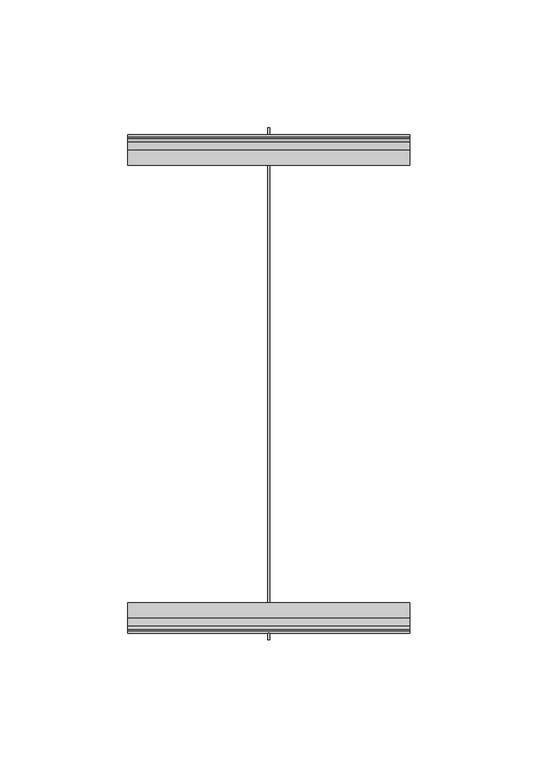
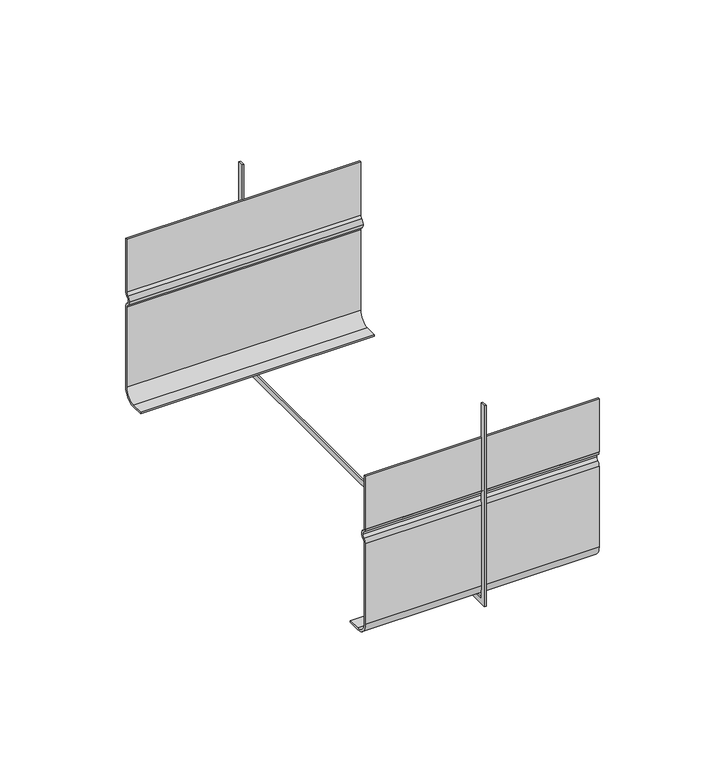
"""IFC4 building model written with IfcOpenShell, lengths in millimetres: cable carrier fitting geometry, JUER_Junction-Basortray : Basortray JUER-GS."""

from ifc_helpers import new_model, si_unit, point, frame, frame_2d, origin, place, context, project, spatial, polyline, circle_curve, trimmed, segment, composite_curve, outline, extrude, source, transform, mapped, element, save


def cable_carrier_fitting_30d9f417(model_context):
    return source(origin(), model_context, "Body", "SweptSolid", [
        extrude(outline(composite_curve([segment(polyline([(-85.46, -47.46), (-91.3323832, -47.46)]), True, "CONTINUOUS"), segment(trimmed(circle_curve(frame_2d((-91.3323832, -41.3266456)), 6.1333545), [point((-91.3323832, -47.46))], [point((-97.46, -41.0614116))], False, "CARTESIAN"), True, "CONTINUOUS"), segment(polyline([(-97.46, -41.0614116), (-97.46, -1.0793222)]), True, "CONTINUOUS"), segment(trimmed(circle_curve(frame_2d((-95.0367585, -1.0793222)), 2.4232415), [point((-97.46, -1.0793222))], [point((-96.3176031, 0.9777477))], False, "CARTESIAN"), True, "CONTINUOUS"), segment(trimmed(circle_curve(frame_2d((-97.2070283, 2.4061878)), 1.6827117), [point((-96.3176031, 0.9777477))], [point((-95.5296456, 2.54))], True, "CARTESIAN"), True, "CONTINUOUS"), segment(trimmed(circle_curve(frame_2d((-97.2070283, 2.6738121)), 1.6827117), [point((-95.5296456, 2.54))], [point((-96.3176031, 4.1022523))], True, "CARTESIAN"), True, "CONTINUOUS"), segment(trimmed(circle_curve(frame_2d((-95.0367585, 6.1593222)), 2.4232415), [point((-96.3176031, 4.1022523))], [point((-97.46, 6.1593222))], False, "CARTESIAN"), True, "CONTINUOUS"), segment(polyline([(-97.46, 6.1593222), (-97.46, 32.54), (-96.66, 32.54), (-96.66, 6.1593222)]), True, "CONTINUOUS"), segment(trimmed(circle_curve(frame_2d((-95.0367585, 6.1593222)), 1.6232415), [point((-96.66, 6.1593222))], [point((-95.8947498, 4.7813657))], True, "CARTESIAN"), True, "CONTINUOUS"), segment(trimmed(circle_curve(frame_2d((-97.2070283, 2.6738121)), 2.4827117), [point((-95.8947498, 4.7813657))], [point((-94.7279254, 2.54))], False, "CARTESIAN"), True, "CONTINUOUS"), segment(trimmed(circle_curve(frame_2d((-97.2070283, 2.4061878)), 2.4827117), [point((-94.7279254, 2.54))], [point((-95.8947498, 0.2986342))], False, "CARTESIAN"), True, "CONTINUOUS"), segment(trimmed(circle_curve(frame_2d((-95.0367585, -1.0793222)), 1.6232415), [point((-95.8947498, 0.2986342))], [point((-96.66, -1.0793222))], True, "CARTESIAN"), True, "CONTINUOUS"), segment(polyline([(-96.66, -1.0793222), (-96.66, -41.0793222)]), True, "CONTINUOUS"), segment(trimmed(circle_curve(frame_2d((-91.3323832, -41.3266456)), 5.3333545), [point((-96.66, -41.0793222))], [point((-91.3323832, -46.66))], True, "CARTESIAN"), True, "CONTINUOUS"), segment(polyline([(-91.3323832, -46.66), (-85.46, -46.66), (-85.46, -47.46)]), True, "CONTINUOUS")], self_intersect=False)), frame((-54.6, 0.0, 0.0), z_axis=(1.0, 0.0, 0.0), x_axis=(0.0, 1.0, 0.0)), (0.0, 0.0, 1.0), 110.0),
        extrude(outline(composite_curve([segment(polyline([(85.46, -47.46), (85.46, -46.66), (91.3323832, -46.66)]), True, "CONTINUOUS"), segment(trimmed(circle_curve(frame_2d((91.3323832, -41.3266456)), 5.3333545), [point((91.3323832, -46.66))], [point((96.66, -41.0793222))], True, "CARTESIAN"), True, "CONTINUOUS"), segment(polyline([(96.66, -41.0793222), (96.66, -1.0793222)]), True, "CONTINUOUS"), segment(trimmed(circle_curve(frame_2d((95.0367585, -1.0793222)), 1.6232415), [point((96.66, -1.0793222))], [point((95.8947498, 0.2986342))], True, "CARTESIAN"), True, "CONTINUOUS"), segment(trimmed(circle_curve(frame_2d((97.2070283, 2.4061878)), 2.4827117), [point((95.8947498, 0.2986342))], [point((94.7279254, 2.54))], False, "CARTESIAN"), True, "CONTINUOUS"), segment(trimmed(circle_curve(frame_2d((97.2070283, 2.6738121)), 2.4827117), [point((94.7279254, 2.54))], [point((95.8947498, 4.7813657))], False, "CARTESIAN"), True, "CONTINUOUS"), segment(trimmed(circle_curve(frame_2d((95.0367585, 6.1593222)), 1.6232415), [point((95.8947498, 4.7813657))], [point((96.66, 6.1593222))], True, "CARTESIAN"), True, "CONTINUOUS"), segment(polyline([(96.66, 6.1593222), (96.66, 32.54), (97.46, 32.54), (97.46, 6.1593222)]), True, "CONTINUOUS"), segment(trimmed(circle_curve(frame_2d((95.0367585, 6.1593222)), 2.4232415), [point((97.46, 6.1593222))], [point((96.3176031, 4.1022523))], False, "CARTESIAN"), True, "CONTINUOUS"), segment(trimmed(circle_curve(frame_2d((97.2070283, 2.6738121)), 1.6827117), [point((96.3176031, 4.1022523))], [point((95.5296456, 2.54))], True, "CARTESIAN"), True, "CONTINUOUS"), segment(trimmed(circle_curve(frame_2d((97.2070283, 2.4061878)), 1.6827117), [point((95.5296456, 2.54))], [point((96.3176031, 0.9777477))], True, "CARTESIAN"), True, "CONTINUOUS"), segment(trimmed(circle_curve(frame_2d((95.0367585, -1.0793222)), 2.4232415), [point((96.3176031, 0.9777477))], [point((97.46, -1.0793222))], False, "CARTESIAN"), True, "CONTINUOUS"), segment(polyline([(97.46, -1.0793222), (97.46, -41.0614116)]), True, "CONTINUOUS"), segment(trimmed(circle_curve(frame_2d((91.3323832, -41.3266456)), 6.1333545), [point((97.46, -41.0614116))], [point((91.3323832, -47.46))], False, "CARTESIAN"), True, "CONTINUOUS"), segment(polyline([(91.3323832, -47.46), (85.46, -47.46)]), True, "CONTINUOUS")], self_intersect=False)), frame((-54.6, 0.0, 0.0), z_axis=(1.0, 0.0, 0.0), x_axis=(0.0, 1.0, 0.0)), (0.0, 0.0, 1.0), 110.0),
        extrude(outline(polyline([(-100.0, -50.0), (-100.0, 50.0), (-97.46, 50.0), (-97.46, -47.46), (97.46, -47.46), (97.46, 50.0), (100.0, 50.0), (100.0, -50.0), (-100.0, -50.0)])), frame((0.0, 0.0, 0.0), z_axis=(1.0, 0.0, 0.0), x_axis=(0.0, 1.0, 0.0)), (0.0, 0.0, 1.0), 0.8),
    ])


if __name__ == "__main__":
    model = new_model("IFC4")
    model_context = context("Model", 3, world=origin())
    ifc_project = project(units=[si_unit("LENGTHUNIT", "METRE", prefix="MILLI")], contexts=[model_context])
    site = spatial("IfcSite", under=ifc_project)
    building = spatial("IfcBuilding", under=site)
    placement = place(None, origin())
    cable_carrier_fitting_shape = cable_carrier_fitting_30d9f417(model_context)
    element("IfcCableCarrierFitting", 1, ObjectType="JUER_Junction-Basortray : Basortray JUER-GS", at=placement, inside=building, context=model_context, shape_type="MappedRepresentation", body=[
        mapped(cable_carrier_fitting_shape, transform((0.0, 0.0, 0.0), x_axis=(1.0, 0.0, 0.0), y_axis=(0.0, 1.0, 0.0), z_axis=(0.0, 0.0, 1.0))),
    ])
    save(model, "model.ifc")
